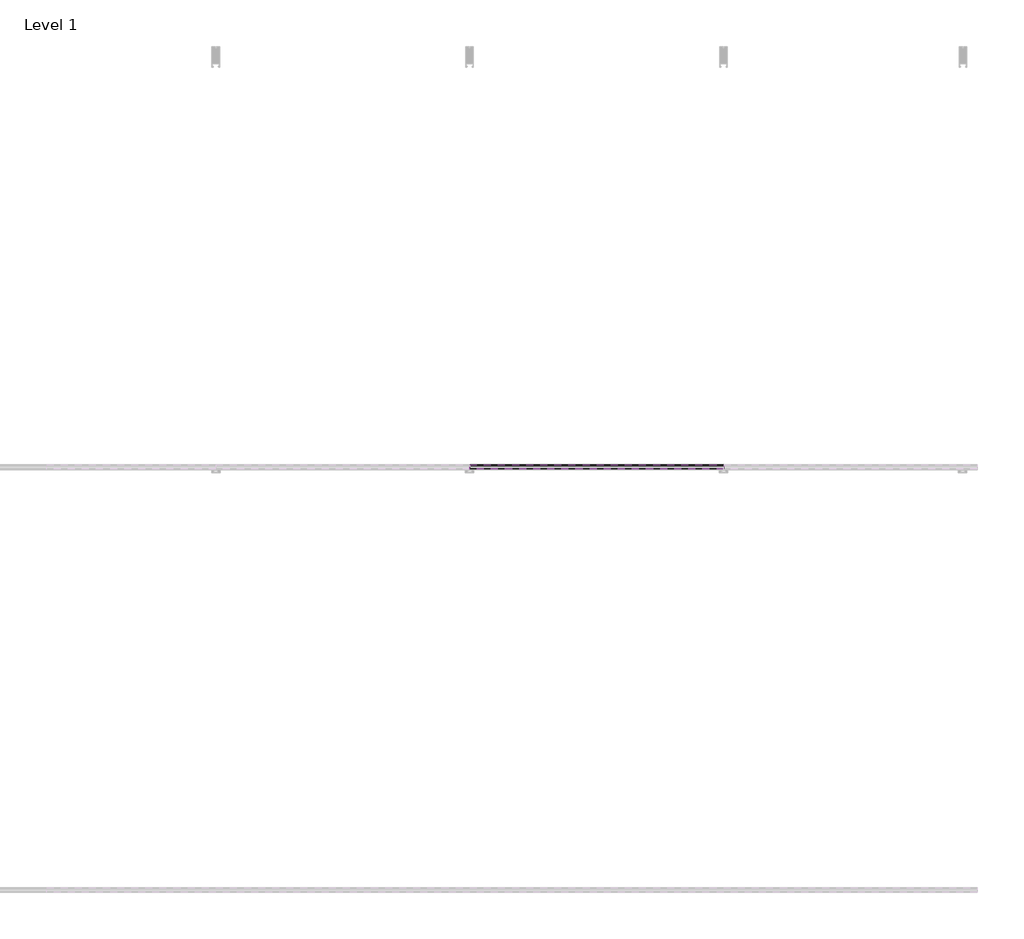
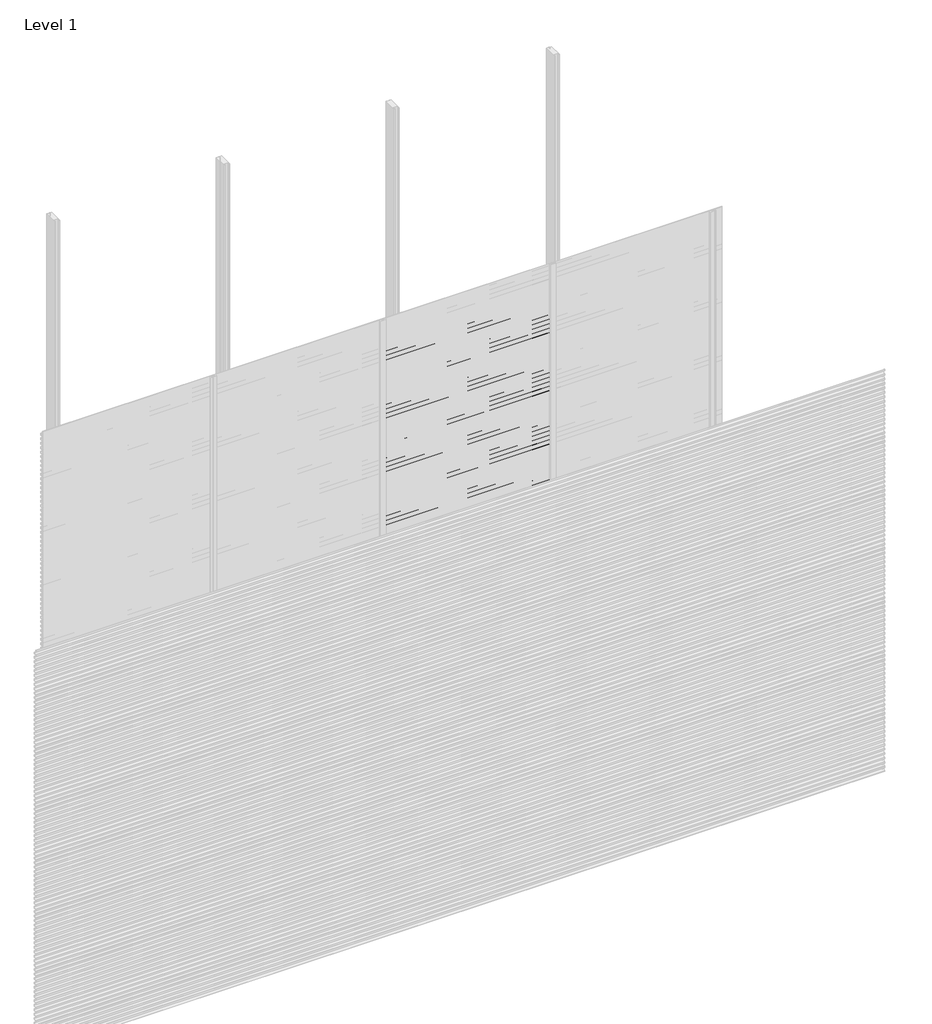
# One storey, part 46 of 77: 72 proxies.
"""IFC4 building model written with IfcOpenShell, lengths in millimetres."""

from ifc_helpers import new_model, si_unit, frame, origin, place, context, project, spatial, polyline, outline, extrude, element, save

model = new_model("IFC4")

# Units and contexts
model_context = context("Model", 3, world=origin())
ifc_project = project(units=[si_unit("LENGTHUNIT", "METRE", prefix="MILLI")], contexts=[model_context])

# Site, building, storey
site = spatial("IfcSite", under=ifc_project)
building = spatial("IfcBuilding", under=site)
storey = spatial("IfcBuildingStorey", under=building, Name="Level 1", Elevation=0.0)

# Proxies
placement = place(None, origin())
element("IfcBuildingElementProxy", 1, Name="Wall Sweeps", at=placement, inside=storey, context=model_context, shape_type="SweptSolid", body=[
    extrude(outline(polyline([(-23978.6, 2806.0359887), (-23998.0, 2817.2366691), (-23998.0, 2830.5), (-23997.0, 2830.5), (-23997.0, 2817.8191057), (-23977.6, 2806.6185105), (-23977.6, 2793.0185105), (-23978.6, 2794.5953129), (-23978.6, 2800.4032062), (-23995.9773817, 2792.3), (-23996.4, 2793.2063078), (-23978.6, 2801.5065841), (-23978.6, 2806.0359887)])), frame((3600.0, 0.0, 0.0), z_axis=(1.0, 0.0, 0.0), x_axis=(0.0, 1.0, 0.0)), (0.0, 0.0, 1.0), 1200.0),
])
element("IfcBuildingElementProxy", 2, Name="Wall Sweeps", at=placement, inside=storey, context=model_context, shape_type="SweptSolid", body=[
    extrude(outline(polyline([(-23978.6, 2772.7359887), (-23998.0, 2783.9366691), (-23998.0, 2797.2), (-23997.0, 2797.2), (-23997.0, 2784.5191057), (-23977.6, 2773.3185105), (-23977.6, 2759.7185105), (-23978.6, 2761.2953129), (-23978.6, 2767.1032062), (-23995.9773817, 2759.0), (-23996.4, 2759.9063078), (-23978.6, 2768.2065841), (-23978.6, 2772.7359887)])), frame((3600.0, 0.0, 0.0), z_axis=(1.0, 0.0, 0.0), x_axis=(0.0, 1.0, 0.0)), (0.0, 0.0, 1.0), 1200.0),
])
element("IfcBuildingElementProxy", 3, Name="Wall Sweeps", at=placement, inside=storey, context=model_context, shape_type="SweptSolid", body=[
    extrude(outline(polyline([(-23978.6, 2739.4359887), (-23998.0, 2750.6366691), (-23998.0, 2763.9), (-23997.0, 2763.9), (-23997.0, 2751.2191057), (-23977.6, 2740.0185105), (-23977.6, 2726.4185105), (-23978.6, 2727.9953129), (-23978.6, 2733.8032062), (-23995.9773817, 2725.7), (-23996.4, 2726.6063078), (-23978.6, 2734.9065841), (-23978.6, 2739.4359887)])), frame((3600.0, 0.0, 0.0), z_axis=(1.0, 0.0, 0.0), x_axis=(0.0, 1.0, 0.0)), (0.0, 0.0, 1.0), 1200.0),
])
element("IfcBuildingElementProxy", 4, Name="Wall Sweeps", at=placement, inside=storey, context=model_context, shape_type="SweptSolid", body=[
    extrude(outline(polyline([(-23978.6, 2706.1359887), (-23998.0, 2717.3366691), (-23998.0, 2730.6), (-23997.0, 2730.6), (-23997.0, 2717.9191057), (-23977.6, 2706.7185105), (-23977.6, 2693.1185105), (-23978.6, 2694.6953129), (-23978.6, 2700.5032062), (-23995.9773817, 2692.4), (-23996.4, 2693.3063078), (-23978.6, 2701.6065841), (-23978.6, 2706.1359887)])), frame((3600.0, 0.0, 0.0), z_axis=(1.0, 0.0, 0.0), x_axis=(0.0, 1.0, 0.0)), (0.0, 0.0, 1.0), 1200.0),
])
element("IfcBuildingElementProxy", 5, Name="Wall Sweeps", at=placement, inside=storey, context=model_context, shape_type="SweptSolid", body=[
    extrude(outline(polyline([(-23978.6, 2672.8359887), (-23998.0, 2684.0366691), (-23998.0, 2697.3), (-23997.0, 2697.3), (-23997.0, 2684.6191057), (-23977.6, 2673.4185105), (-23977.6, 2659.8185105), (-23978.6, 2661.3953129), (-23978.6, 2667.2032062), (-23995.9773817, 2659.1), (-23996.4, 2660.0063078), (-23978.6, 2668.3065841), (-23978.6, 2672.8359887)])), frame((3600.0, 0.0, 0.0), z_axis=(1.0, 0.0, 0.0), x_axis=(0.0, 1.0, 0.0)), (0.0, 0.0, 1.0), 1200.0),
])
element("IfcBuildingElementProxy", 6, Name="Wall Sweeps", at=placement, inside=storey, context=model_context, shape_type="SweptSolid", body=[
    extrude(outline(polyline([(-23978.6, 2639.5359887), (-23998.0, 2650.7366691), (-23998.0, 2664.0), (-23997.0, 2664.0), (-23997.0, 2651.3191057), (-23977.6, 2640.1185105), (-23977.6, 2626.5185105), (-23978.6, 2628.0953129), (-23978.6, 2633.9032062), (-23995.9773817, 2625.8), (-23996.4, 2626.7063078), (-23978.6, 2635.0065841), (-23978.6, 2639.5359887)])), frame((3600.0, 0.0, 0.0), z_axis=(1.0, 0.0, 0.0), x_axis=(0.0, 1.0, 0.0)), (0.0, 0.0, 1.0), 1200.0),
])
element("IfcBuildingElementProxy", 7, Name="Wall Sweeps", at=placement, inside=storey, context=model_context, shape_type="SweptSolid", body=[
    extrude(outline(polyline([(-23978.6, 2606.2359887), (-23998.0, 2617.4366691), (-23998.0, 2630.7), (-23997.0, 2630.7), (-23997.0, 2618.0191057), (-23977.6, 2606.8185105), (-23977.6, 2593.2185105), (-23978.6, 2594.7953129), (-23978.6, 2600.6032062), (-23995.9773817, 2592.5), (-23996.4, 2593.4063078), (-23978.6, 2601.7065841), (-23978.6, 2606.2359887)])), frame((3600.0, 0.0, 0.0), z_axis=(1.0, 0.0, 0.0), x_axis=(0.0, 1.0, 0.0)), (0.0, 0.0, 1.0), 1200.0),
])
element("IfcBuildingElementProxy", 8, Name="Wall Sweeps", at=placement, inside=storey, context=model_context, shape_type="SweptSolid", body=[
    extrude(outline(polyline([(-23978.6, 2572.9359887), (-23998.0, 2584.1366691), (-23998.0, 2597.4), (-23997.0, 2597.4), (-23997.0, 2584.7191057), (-23977.6, 2573.5185105), (-23977.6, 2559.9185105), (-23978.6, 2561.4953129), (-23978.6, 2567.3032062), (-23995.9773817, 2559.2), (-23996.4, 2560.1063078), (-23978.6, 2568.4065841), (-23978.6, 2572.9359887)])), frame((3600.0, 0.0, 0.0), z_axis=(1.0, 0.0, 0.0), x_axis=(0.0, 1.0, 0.0)), (0.0, 0.0, 1.0), 1200.0),
])
element("IfcBuildingElementProxy", 9, Name="Wall Sweeps", at=placement, inside=storey, context=model_context, shape_type="SweptSolid", body=[
    extrude(outline(polyline([(-23978.6, 2539.6359887), (-23998.0, 2550.8366691), (-23998.0, 2564.1), (-23997.0, 2564.1), (-23997.0, 2551.4191057), (-23977.6, 2540.2185105), (-23977.6, 2526.6185105), (-23978.6, 2528.1953129), (-23978.6, 2534.0032062), (-23995.9773817, 2525.9), (-23996.4, 2526.8063078), (-23978.6, 2535.1065841), (-23978.6, 2539.6359887)])), frame((3600.0, 0.0, 0.0), z_axis=(1.0, 0.0, 0.0), x_axis=(0.0, 1.0, 0.0)), (0.0, 0.0, 1.0), 1200.0),
])
element("IfcBuildingElementProxy", 10, Name="Wall Sweeps", at=placement, inside=storey, context=model_context, shape_type="SweptSolid", body=[
    extrude(outline(polyline([(-23978.6, 2506.3359887), (-23998.0, 2517.5366691), (-23998.0, 2530.8), (-23997.0, 2530.8), (-23997.0, 2518.1191057), (-23977.6, 2506.9185105), (-23977.6, 2493.3185105), (-23978.6, 2494.8953129), (-23978.6, 2500.7032062), (-23995.9773817, 2492.6), (-23996.4, 2493.5063078), (-23978.6, 2501.8065841), (-23978.6, 2506.3359887)])), frame((3600.0, 0.0, 0.0), z_axis=(1.0, 0.0, 0.0), x_axis=(0.0, 1.0, 0.0)), (0.0, 0.0, 1.0), 1200.0),
])
element("IfcBuildingElementProxy", 11, Name="Wall Sweeps", at=placement, inside=storey, context=model_context, shape_type="SweptSolid", body=[
    extrude(outline(polyline([(-23978.6, 2473.0359887), (-23998.0, 2484.2366691), (-23998.0, 2497.5), (-23997.0, 2497.5), (-23997.0, 2484.8191057), (-23977.6, 2473.6185105), (-23977.6, 2460.0185105), (-23978.6, 2461.5953129), (-23978.6, 2467.4032062), (-23995.9773817, 2459.3), (-23996.4, 2460.2063078), (-23978.6, 2468.5065841), (-23978.6, 2473.0359887)])), frame((3600.0, 0.0, 0.0), z_axis=(1.0, 0.0, 0.0), x_axis=(0.0, 1.0, 0.0)), (0.0, 0.0, 1.0), 1200.0),
])
element("IfcBuildingElementProxy", 12, Name="Wall Sweeps", at=placement, inside=storey, context=model_context, shape_type="SweptSolid", body=[
    extrude(outline(polyline([(-23978.6, 2439.7359887), (-23998.0, 2450.9366691), (-23998.0, 2464.2), (-23997.0, 2464.2), (-23997.0, 2451.5191057), (-23977.6, 2440.3185105), (-23977.6, 2426.7185105), (-23978.6, 2428.2953129), (-23978.6, 2434.1032062), (-23995.9773817, 2426.0), (-23996.4, 2426.9063078), (-23978.6, 2435.2065841), (-23978.6, 2439.7359887)])), frame((3600.0, 0.0, 0.0), z_axis=(1.0, 0.0, 0.0), x_axis=(0.0, 1.0, 0.0)), (0.0, 0.0, 1.0), 1200.0),
])
element("IfcBuildingElementProxy", 13, Name="Wall Sweeps", at=placement, inside=storey, context=model_context, shape_type="SweptSolid", body=[
    extrude(outline(polyline([(-23978.6, 2406.4359887), (-23998.0, 2417.6366691), (-23998.0, 2430.9), (-23997.0, 2430.9), (-23997.0, 2418.2191057), (-23977.6, 2407.0185105), (-23977.6, 2393.4185105), (-23978.6, 2394.9953129), (-23978.6, 2400.8032062), (-23995.9773817, 2392.7), (-23996.4, 2393.6063078), (-23978.6, 2401.9065841), (-23978.6, 2406.4359887)])), frame((3600.0, 0.0, 0.0), z_axis=(1.0, 0.0, 0.0), x_axis=(0.0, 1.0, 0.0)), (0.0, 0.0, 1.0), 1200.0),
])
element("IfcBuildingElementProxy", 14, Name="Wall Sweeps", at=placement, inside=storey, context=model_context, shape_type="SweptSolid", body=[
    extrude(outline(polyline([(-23978.6, 2373.1359887), (-23998.0, 2384.3366691), (-23998.0, 2397.6), (-23997.0, 2397.6), (-23997.0, 2384.9191057), (-23977.6, 2373.7185105), (-23977.6, 2360.1185105), (-23978.6, 2361.6953129), (-23978.6, 2367.5032062), (-23995.9773817, 2359.4), (-23996.4, 2360.3063078), (-23978.6, 2368.6065841), (-23978.6, 2373.1359887)])), frame((3600.0, 0.0, 0.0), z_axis=(1.0, 0.0, 0.0), x_axis=(0.0, 1.0, 0.0)), (0.0, 0.0, 1.0), 1200.0),
])
element("IfcBuildingElementProxy", 15, Name="Wall Sweeps", at=placement, inside=storey, context=model_context, shape_type="SweptSolid", body=[
    extrude(outline(polyline([(-23978.6, 2339.8359887), (-23998.0, 2351.0366691), (-23998.0, 2364.3), (-23997.0, 2364.3), (-23997.0, 2351.6191057), (-23977.6, 2340.4185105), (-23977.6, 2326.8185105), (-23978.6, 2328.3953129), (-23978.6, 2334.2032062), (-23995.9773817, 2326.1), (-23996.4, 2327.0063078), (-23978.6, 2335.3065841), (-23978.6, 2339.8359887)])), frame((3600.0, 0.0, 0.0), z_axis=(1.0, 0.0, 0.0), x_axis=(0.0, 1.0, 0.0)), (0.0, 0.0, 1.0), 1200.0),
])
element("IfcBuildingElementProxy", 16, Name="Wall Sweeps", at=placement, inside=storey, context=model_context, shape_type="SweptSolid", body=[
    extrude(outline(polyline([(-23978.6, 2306.5359887), (-23998.0, 2317.7366691), (-23998.0, 2331.0), (-23997.0, 2331.0), (-23997.0, 2318.3191057), (-23977.6, 2307.1185105), (-23977.6, 2293.5185105), (-23978.6, 2295.0953129), (-23978.6, 2300.9032062), (-23995.9773817, 2292.8), (-23996.4, 2293.7063078), (-23978.6, 2302.0065841), (-23978.6, 2306.5359887)])), frame((3600.0, 0.0, 0.0), z_axis=(1.0, 0.0, 0.0), x_axis=(0.0, 1.0, 0.0)), (0.0, 0.0, 1.0), 1200.0),
])
element("IfcBuildingElementProxy", 17, Name="Wall Sweeps", at=placement, inside=storey, context=model_context, shape_type="SweptSolid", body=[
    extrude(outline(polyline([(-23978.6, 2273.2359887), (-23998.0, 2284.4366691), (-23998.0, 2297.7), (-23997.0, 2297.7), (-23997.0, 2285.0191057), (-23977.6, 2273.8185105), (-23977.6, 2260.2185105), (-23978.6, 2261.7953129), (-23978.6, 2267.6032062), (-23995.9773817, 2259.5), (-23996.4, 2260.4063078), (-23978.6, 2268.7065841), (-23978.6, 2273.2359887)])), frame((3600.0, 0.0, 0.0), z_axis=(1.0, 0.0, 0.0), x_axis=(0.0, 1.0, 0.0)), (0.0, 0.0, 1.0), 1200.0),
])
element("IfcBuildingElementProxy", 18, Name="Wall Sweeps", at=placement, inside=storey, context=model_context, shape_type="SweptSolid", body=[
    extrude(outline(polyline([(-23978.6, 2239.9359887), (-23998.0, 2251.1366691), (-23998.0, 2264.4), (-23997.0, 2264.4), (-23997.0, 2251.7191057), (-23977.6, 2240.5185105), (-23977.6, 2226.9185105), (-23978.6, 2228.4953129), (-23978.6, 2234.3032062), (-23995.9773817, 2226.2), (-23996.4, 2227.1063078), (-23978.6, 2235.4065841), (-23978.6, 2239.9359887)])), frame((3600.0, 0.0, 0.0), z_axis=(1.0, 0.0, 0.0), x_axis=(0.0, 1.0, 0.0)), (0.0, 0.0, 1.0), 1200.0),
])
element("IfcBuildingElementProxy", 19, Name="Wall Sweeps", at=placement, inside=storey, context=model_context, shape_type="SweptSolid", body=[
    extrude(outline(polyline([(-23978.6, 2206.6359887), (-23998.0, 2217.8366691), (-23998.0, 2231.1), (-23997.0, 2231.1), (-23997.0, 2218.4191057), (-23977.6, 2207.2185105), (-23977.6, 2193.6185105), (-23978.6, 2195.1953129), (-23978.6, 2201.0032062), (-23995.9773817, 2192.9), (-23996.4, 2193.8063078), (-23978.6, 2202.1065841), (-23978.6, 2206.6359887)])), frame((3600.0, 0.0, 0.0), z_axis=(1.0, 0.0, 0.0), x_axis=(0.0, 1.0, 0.0)), (0.0, 0.0, 1.0), 1200.0),
])
element("IfcBuildingElementProxy", 20, Name="Wall Sweeps", at=placement, inside=storey, context=model_context, shape_type="SweptSolid", body=[
    extrude(outline(polyline([(-23978.6, 2173.3359887), (-23998.0, 2184.5366691), (-23998.0, 2197.8), (-23997.0, 2197.8), (-23997.0, 2185.1191057), (-23977.6, 2173.9185105), (-23977.6, 2160.3185105), (-23978.6, 2161.8953129), (-23978.6, 2167.7032062), (-23995.9773817, 2159.6), (-23996.4, 2160.5063078), (-23978.6, 2168.8065841), (-23978.6, 2173.3359887)])), frame((3600.0, 0.0, 0.0), z_axis=(1.0, 0.0, 0.0), x_axis=(0.0, 1.0, 0.0)), (0.0, 0.0, 1.0), 1200.0),
])
element("IfcBuildingElementProxy", 21, Name="Wall Sweeps", at=placement, inside=storey, context=model_context, shape_type="SweptSolid", body=[
    extrude(outline(polyline([(-23978.6, 2140.0359887), (-23998.0, 2151.2366691), (-23998.0, 2164.5), (-23997.0, 2164.5), (-23997.0, 2151.8191057), (-23977.6, 2140.6185105), (-23977.6, 2127.0185105), (-23978.6, 2128.5953129), (-23978.6, 2134.4032062), (-23995.9773817, 2126.3), (-23996.4, 2127.2063078), (-23978.6, 2135.5065841), (-23978.6, 2140.0359887)])), frame((3600.0, 0.0, 0.0), z_axis=(1.0, 0.0, 0.0), x_axis=(0.0, 1.0, 0.0)), (0.0, 0.0, 1.0), 1200.0),
])
element("IfcBuildingElementProxy", 22, Name="Wall Sweeps", at=placement, inside=storey, context=model_context, shape_type="SweptSolid", body=[
    extrude(outline(polyline([(-23978.6, 2106.7359887), (-23998.0, 2117.9366691), (-23998.0, 2131.2), (-23997.0, 2131.2), (-23997.0, 2118.5191057), (-23977.6, 2107.3185105), (-23977.6, 2093.7185105), (-23978.6, 2095.2953129), (-23978.6, 2101.1032062), (-23995.9773817, 2093.0), (-23996.4, 2093.9063078), (-23978.6, 2102.2065841), (-23978.6, 2106.7359887)])), frame((3600.0, 0.0, 0.0), z_axis=(1.0, 0.0, 0.0), x_axis=(0.0, 1.0, 0.0)), (0.0, 0.0, 1.0), 1200.0),
])
element("IfcBuildingElementProxy", 23, Name="Wall Sweeps", at=placement, inside=storey, context=model_context, shape_type="SweptSolid", body=[
    extrude(outline(polyline([(-23978.6, 2073.4359887), (-23998.0, 2084.6366691), (-23998.0, 2097.9), (-23997.0, 2097.9), (-23997.0, 2085.2191057), (-23977.6, 2074.0185105), (-23977.6, 2060.4185105), (-23978.6, 2061.9953129), (-23978.6, 2067.8032062), (-23995.9773817, 2059.7), (-23996.4, 2060.6063078), (-23978.6, 2068.9065841), (-23978.6, 2073.4359887)])), frame((3600.0, 0.0, 0.0), z_axis=(1.0, 0.0, 0.0), x_axis=(0.0, 1.0, 0.0)), (0.0, 0.0, 1.0), 1200.0),
])
element("IfcBuildingElementProxy", 24, Name="Wall Sweeps", at=placement, inside=storey, context=model_context, shape_type="SweptSolid", body=[
    extrude(outline(polyline([(-23978.6, 2040.1359887), (-23998.0, 2051.3366691), (-23998.0, 2064.6), (-23997.0, 2064.6), (-23997.0, 2051.9191057), (-23977.6, 2040.7185105), (-23977.6, 2027.1185105), (-23978.6, 2028.6953129), (-23978.6, 2034.5032062), (-23995.9773817, 2026.4), (-23996.4, 2027.3063078), (-23978.6, 2035.6065841), (-23978.6, 2040.1359887)])), frame((3600.0, 0.0, 0.0), z_axis=(1.0, 0.0, 0.0), x_axis=(0.0, 1.0, 0.0)), (0.0, 0.0, 1.0), 1200.0),
])
element("IfcBuildingElementProxy", 25, Name="Wall Sweeps", at=placement, inside=storey, context=model_context, shape_type="SweptSolid", body=[
    extrude(outline(polyline([(-23978.6, 2006.8359887), (-23998.0, 2018.0366691), (-23998.0, 2031.3), (-23997.0, 2031.3), (-23997.0, 2018.6191057), (-23977.6, 2007.4185105), (-23977.6, 1993.8185105), (-23978.6, 1995.3953129), (-23978.6, 2001.2032062), (-23995.9773817, 1993.1), (-23996.4, 1994.0063078), (-23978.6, 2002.3065841), (-23978.6, 2006.8359887)])), frame((3600.0, 0.0, 0.0), z_axis=(1.0, 0.0, 0.0), x_axis=(0.0, 1.0, 0.0)), (0.0, 0.0, 1.0), 1200.0),
])
element("IfcBuildingElementProxy", 26, Name="Wall Sweeps", at=placement, inside=storey, context=model_context, shape_type="SweptSolid", body=[
    extrude(outline(polyline([(-23978.6, 1973.5359887), (-23998.0, 1984.7366691), (-23998.0, 1998.0), (-23997.0, 1998.0), (-23997.0, 1985.3191057), (-23977.6, 1974.1185105), (-23977.6, 1960.5185105), (-23978.6, 1962.0953129), (-23978.6, 1967.9032062), (-23995.9773817, 1959.8), (-23996.4, 1960.7063078), (-23978.6, 1969.0065841), (-23978.6, 1973.5359887)])), frame((3600.0, 0.0, 0.0), z_axis=(1.0, 0.0, 0.0), x_axis=(0.0, 1.0, 0.0)), (0.0, 0.0, 1.0), 1200.0),
])
element("IfcBuildingElementProxy", 27, Name="Wall Sweeps", at=placement, inside=storey, context=model_context, shape_type="SweptSolid", body=[
    extrude(outline(polyline([(-23978.6, 1940.2359887), (-23998.0, 1951.4366691), (-23998.0, 1964.7), (-23997.0, 1964.7), (-23997.0, 1952.0191057), (-23977.6, 1940.8185105), (-23977.6, 1927.2185105), (-23978.6, 1928.7953129), (-23978.6, 1934.6032062), (-23995.9773817, 1926.5), (-23996.4, 1927.4063078), (-23978.6, 1935.7065841), (-23978.6, 1940.2359887)])), frame((3600.0, 0.0, 0.0), z_axis=(1.0, 0.0, 0.0), x_axis=(0.0, 1.0, 0.0)), (0.0, 0.0, 1.0), 1200.0),
])
element("IfcBuildingElementProxy", 28, Name="Wall Sweeps", at=placement, inside=storey, context=model_context, shape_type="SweptSolid", body=[
    extrude(outline(polyline([(-23978.6, 1906.9359887), (-23998.0, 1918.1366691), (-23998.0, 1931.4), (-23997.0, 1931.4), (-23997.0, 1918.7191057), (-23977.6, 1907.5185105), (-23977.6, 1893.9185105), (-23978.6, 1895.4953129), (-23978.6, 1901.3032062), (-23995.9773817, 1893.2), (-23996.4, 1894.1063078), (-23978.6, 1902.4065841), (-23978.6, 1906.9359887)])), frame((3600.0, 0.0, 0.0), z_axis=(1.0, 0.0, 0.0), x_axis=(0.0, 1.0, 0.0)), (0.0, 0.0, 1.0), 1200.0),
])
element("IfcBuildingElementProxy", 29, Name="Wall Sweeps", at=placement, inside=storey, context=model_context, shape_type="SweptSolid", body=[
    extrude(outline(polyline([(-23978.6, 1873.6359887), (-23998.0, 1884.8366691), (-23998.0, 1898.1), (-23997.0, 1898.1), (-23997.0, 1885.4191057), (-23977.6, 1874.2185105), (-23977.6, 1860.6185105), (-23978.6, 1862.1953129), (-23978.6, 1868.0032062), (-23995.9773817, 1859.9), (-23996.4, 1860.8063078), (-23978.6, 1869.1065841), (-23978.6, 1873.6359887)])), frame((3600.0, 0.0, 0.0), z_axis=(1.0, 0.0, 0.0), x_axis=(0.0, 1.0, 0.0)), (0.0, 0.0, 1.0), 1200.0),
])
element("IfcBuildingElementProxy", 30, Name="Wall Sweeps", at=placement, inside=storey, context=model_context, shape_type="SweptSolid", body=[
    extrude(outline(polyline([(-23978.6, 1840.3359887), (-23998.0, 1851.5366691), (-23998.0, 1864.8), (-23997.0, 1864.8), (-23997.0, 1852.1191057), (-23977.6, 1840.9185105), (-23977.6, 1827.3185105), (-23978.6, 1828.8953129), (-23978.6, 1834.7032062), (-23995.9773817, 1826.6), (-23996.4, 1827.5063078), (-23978.6, 1835.8065841), (-23978.6, 1840.3359887)])), frame((3600.0, 0.0, 0.0), z_axis=(1.0, 0.0, 0.0), x_axis=(0.0, 1.0, 0.0)), (0.0, 0.0, 1.0), 1200.0),
])
element("IfcBuildingElementProxy", 31, Name="Wall Sweeps", at=placement, inside=storey, context=model_context, shape_type="SweptSolid", body=[
    extrude(outline(polyline([(-23978.6, 1807.0359887), (-23998.0, 1818.2366691), (-23998.0, 1831.5), (-23997.0, 1831.5), (-23997.0, 1818.8191057), (-23977.6, 1807.6185105), (-23977.6, 1794.0185105), (-23978.6, 1795.5953129), (-23978.6, 1801.4032062), (-23995.9773817, 1793.3), (-23996.4, 1794.2063078), (-23978.6, 1802.5065841), (-23978.6, 1807.0359887)])), frame((3600.0, 0.0, 0.0), z_axis=(1.0, 0.0, 0.0), x_axis=(0.0, 1.0, 0.0)), (0.0, 0.0, 1.0), 1200.0),
])
element("IfcBuildingElementProxy", 32, Name="Wall Sweeps", at=placement, inside=storey, context=model_context, shape_type="SweptSolid", body=[
    extrude(outline(polyline([(-23978.6, 1773.7359887), (-23998.0, 1784.9366691), (-23998.0, 1798.2), (-23997.0, 1798.2), (-23997.0, 1785.5191057), (-23977.6, 1774.3185105), (-23977.6, 1760.7185105), (-23978.6, 1762.2953129), (-23978.6, 1768.1032062), (-23995.9773817, 1760.0), (-23996.4, 1760.9063078), (-23978.6, 1769.2065841), (-23978.6, 1773.7359887)])), frame((3600.0, 0.0, 0.0), z_axis=(1.0, 0.0, 0.0), x_axis=(0.0, 1.0, 0.0)), (0.0, 0.0, 1.0), 1200.0),
])
element("IfcBuildingElementProxy", 33, Name="Wall Sweeps", at=placement, inside=storey, context=model_context, shape_type="SweptSolid", body=[
    extrude(outline(polyline([(-23978.6, 1740.4359887), (-23998.0, 1751.6366691), (-23998.0, 1764.9), (-23997.0, 1764.9), (-23997.0, 1752.2191057), (-23977.6, 1741.0185105), (-23977.6, 1727.4185105), (-23978.6, 1728.9953129), (-23978.6, 1734.8032062), (-23995.9773817, 1726.7), (-23996.4, 1727.6063078), (-23978.6, 1735.9065841), (-23978.6, 1740.4359887)])), frame((3600.0, 0.0, 0.0), z_axis=(1.0, 0.0, 0.0), x_axis=(0.0, 1.0, 0.0)), (0.0, 0.0, 1.0), 1200.0),
])
element("IfcBuildingElementProxy", 34, Name="Wall Sweeps", at=placement, inside=storey, context=model_context, shape_type="SweptSolid", body=[
    extrude(outline(polyline([(-23978.6, 1707.1359887), (-23998.0, 1718.3366691), (-23998.0, 1731.6), (-23997.0, 1731.6), (-23997.0, 1718.9191057), (-23977.6, 1707.7185105), (-23977.6, 1694.1185105), (-23978.6, 1695.6953129), (-23978.6, 1701.5032062), (-23995.9773817, 1693.4), (-23996.4, 1694.3063078), (-23978.6, 1702.6065841), (-23978.6, 1707.1359887)])), frame((3600.0, 0.0, 0.0), z_axis=(1.0, 0.0, 0.0), x_axis=(0.0, 1.0, 0.0)), (0.0, 0.0, 1.0), 1200.0),
])
element("IfcBuildingElementProxy", 35, Name="Wall Sweeps", at=placement, inside=storey, context=model_context, shape_type="SweptSolid", body=[
    extrude(outline(polyline([(-23978.6, 1673.8359887), (-23998.0, 1685.0366691), (-23998.0, 1698.3), (-23997.0, 1698.3), (-23997.0, 1685.6191057), (-23977.6, 1674.4185105), (-23977.6, 1660.8185105), (-23978.6, 1662.3953129), (-23978.6, 1668.2032062), (-23995.9773817, 1660.1), (-23996.4, 1661.0063078), (-23978.6, 1669.3065841), (-23978.6, 1673.8359887)])), frame((3600.0, 0.0, 0.0), z_axis=(1.0, 0.0, 0.0), x_axis=(0.0, 1.0, 0.0)), (0.0, 0.0, 1.0), 1200.0),
])
element("IfcBuildingElementProxy", 36, Name="Wall Sweeps", at=placement, inside=storey, context=model_context, shape_type="SweptSolid", body=[
    extrude(outline(polyline([(-23978.6, 1640.5359887), (-23998.0, 1651.7366691), (-23998.0, 1665.0), (-23997.0, 1665.0), (-23997.0, 1652.3191057), (-23977.6, 1641.1185105), (-23977.6, 1627.5185105), (-23978.6, 1629.0953129), (-23978.6, 1634.9032062), (-23995.9773817, 1626.8), (-23996.4, 1627.7063078), (-23978.6, 1636.0065841), (-23978.6, 1640.5359887)])), frame((3600.0, 0.0, 0.0), z_axis=(1.0, 0.0, 0.0), x_axis=(0.0, 1.0, 0.0)), (0.0, 0.0, 1.0), 1200.0),
])
element("IfcBuildingElementProxy", 37, Name="Wall Sweeps", at=placement, inside=storey, context=model_context, shape_type="SweptSolid", body=[
    extrude(outline(polyline([(-23978.6, 1607.2359887), (-23998.0, 1618.4366691), (-23998.0, 1631.7), (-23997.0, 1631.7), (-23997.0, 1619.0191057), (-23977.6, 1607.8185105), (-23977.6, 1594.2185105), (-23978.6, 1595.7953129), (-23978.6, 1601.6032062), (-23995.9773817, 1593.5), (-23996.4, 1594.4063078), (-23978.6, 1602.7065841), (-23978.6, 1607.2359887)])), frame((3600.0, 0.0, 0.0), z_axis=(1.0, 0.0, 0.0), x_axis=(0.0, 1.0, 0.0)), (0.0, 0.0, 1.0), 1200.0),
])
element("IfcBuildingElementProxy", 38, Name="Wall Sweeps", at=placement, inside=storey, context=model_context, shape_type="SweptSolid", body=[
    extrude(outline(polyline([(-23978.6, 1573.9359887), (-23998.0, 1585.1366691), (-23998.0, 1598.4), (-23997.0, 1598.4), (-23997.0, 1585.7191057), (-23977.6, 1574.5185105), (-23977.6, 1560.9185105), (-23978.6, 1562.4953129), (-23978.6, 1568.3032062), (-23995.9773817, 1560.2), (-23996.4, 1561.1063078), (-23978.6, 1569.4065841), (-23978.6, 1573.9359887)])), frame((3600.0, 0.0, 0.0), z_axis=(1.0, 0.0, 0.0), x_axis=(0.0, 1.0, 0.0)), (0.0, 0.0, 1.0), 1200.0),
])
element("IfcBuildingElementProxy", 39, Name="Wall Sweeps", at=placement, inside=storey, context=model_context, shape_type="SweptSolid", body=[
    extrude(outline(polyline([(-23978.6, 1540.6359887), (-23998.0, 1551.8366691), (-23998.0, 1565.1), (-23997.0, 1565.1), (-23997.0, 1552.4191057), (-23977.6, 1541.2185105), (-23977.6, 1527.6185105), (-23978.6, 1529.1953129), (-23978.6, 1535.0032062), (-23995.9773817, 1526.9), (-23996.4, 1527.8063078), (-23978.6, 1536.1065841), (-23978.6, 1540.6359887)])), frame((3600.0, 0.0, 0.0), z_axis=(1.0, 0.0, 0.0), x_axis=(0.0, 1.0, 0.0)), (0.0, 0.0, 1.0), 1200.0),
])
element("IfcBuildingElementProxy", 40, Name="Wall Sweeps", at=placement, inside=storey, context=model_context, shape_type="SweptSolid", body=[
    extrude(outline(polyline([(-23978.6, 1507.3359887), (-23998.0, 1518.5366691), (-23998.0, 1531.8), (-23997.0, 1531.8), (-23997.0, 1519.1191057), (-23977.6, 1507.9185105), (-23977.6, 1494.3185105), (-23978.6, 1495.8953129), (-23978.6, 1501.7032062), (-23995.9773817, 1493.6), (-23996.4, 1494.5063078), (-23978.6, 1502.8065841), (-23978.6, 1507.3359887)])), frame((3600.0, 0.0, 0.0), z_axis=(1.0, 0.0, 0.0), x_axis=(0.0, 1.0, 0.0)), (0.0, 0.0, 1.0), 1200.0),
])
element("IfcBuildingElementProxy", 41, Name="Wall Sweeps", at=placement, inside=storey, context=model_context, shape_type="SweptSolid", body=[
    extrude(outline(polyline([(-23978.6, 1474.0359887), (-23998.0, 1485.2366691), (-23998.0, 1498.5), (-23997.0, 1498.5), (-23997.0, 1485.8191057), (-23977.6, 1474.6185105), (-23977.6, 1461.0185105), (-23978.6, 1462.5953129), (-23978.6, 1468.4032062), (-23995.9773817, 1460.3), (-23996.4, 1461.2063078), (-23978.6, 1469.5065841), (-23978.6, 1474.0359887)])), frame((3600.0, 0.0, 0.0), z_axis=(1.0, 0.0, 0.0), x_axis=(0.0, 1.0, 0.0)), (0.0, 0.0, 1.0), 1200.0),
])
element("IfcBuildingElementProxy", 42, Name="Wall Sweeps", at=placement, inside=storey, context=model_context, shape_type="SweptSolid", body=[
    extrude(outline(polyline([(-23978.6, 1440.7359887), (-23998.0, 1451.9366691), (-23998.0, 1465.2), (-23997.0, 1465.2), (-23997.0, 1452.5191057), (-23977.6, 1441.3185105), (-23977.6, 1427.7185105), (-23978.6, 1429.2953129), (-23978.6, 1435.1032062), (-23995.9773817, 1427.0), (-23996.4, 1427.9063078), (-23978.6, 1436.2065841), (-23978.6, 1440.7359887)])), frame((3600.0, 0.0, 0.0), z_axis=(1.0, 0.0, 0.0), x_axis=(0.0, 1.0, 0.0)), (0.0, 0.0, 1.0), 1200.0),
])
element("IfcBuildingElementProxy", 43, Name="Wall Sweeps", at=placement, inside=storey, context=model_context, shape_type="SweptSolid", body=[
    extrude(outline(polyline([(-23978.6, 1407.4359887), (-23998.0, 1418.6366691), (-23998.0, 1431.9), (-23997.0, 1431.9), (-23997.0, 1419.2191057), (-23977.6, 1408.0185105), (-23977.6, 1394.4185105), (-23978.6, 1395.9953129), (-23978.6, 1401.8032062), (-23995.9773817, 1393.7), (-23996.4, 1394.6063078), (-23978.6, 1402.9065841), (-23978.6, 1407.4359887)])), frame((3600.0, 0.0, 0.0), z_axis=(1.0, 0.0, 0.0), x_axis=(0.0, 1.0, 0.0)), (0.0, 0.0, 1.0), 1200.0),
])
element("IfcBuildingElementProxy", 44, Name="Wall Sweeps", at=placement, inside=storey, context=model_context, shape_type="SweptSolid", body=[
    extrude(outline(polyline([(-23978.6, 1374.1359887), (-23998.0, 1385.3366691), (-23998.0, 1398.6), (-23997.0, 1398.6), (-23997.0, 1385.9191057), (-23977.6, 1374.7185105), (-23977.6, 1361.1185105), (-23978.6, 1362.6953129), (-23978.6, 1368.5032062), (-23995.9773817, 1360.4), (-23996.4, 1361.3063078), (-23978.6, 1369.6065841), (-23978.6, 1374.1359887)])), frame((3600.0, 0.0, 0.0), z_axis=(1.0, 0.0, 0.0), x_axis=(0.0, 1.0, 0.0)), (0.0, 0.0, 1.0), 1200.0),
])
element("IfcBuildingElementProxy", 45, Name="Wall Sweeps", at=placement, inside=storey, context=model_context, shape_type="SweptSolid", body=[
    extrude(outline(polyline([(-23978.6, 1340.8359887), (-23998.0, 1352.0366691), (-23998.0, 1365.3), (-23997.0, 1365.3), (-23997.0, 1352.6191057), (-23977.6, 1341.4185105), (-23977.6, 1327.8185105), (-23978.6, 1329.3953129), (-23978.6, 1335.2032062), (-23995.9773817, 1327.1), (-23996.4, 1328.0063078), (-23978.6, 1336.3065841), (-23978.6, 1340.8359887)])), frame((3600.0, 0.0, 0.0), z_axis=(1.0, 0.0, 0.0), x_axis=(0.0, 1.0, 0.0)), (0.0, 0.0, 1.0), 1200.0),
])
element("IfcBuildingElementProxy", 46, Name="Wall Sweeps", at=placement, inside=storey, context=model_context, shape_type="SweptSolid", body=[
    extrude(outline(polyline([(-23978.6, 1307.5359887), (-23998.0, 1318.7366691), (-23998.0, 1332.0), (-23997.0, 1332.0), (-23997.0, 1319.3191057), (-23977.6, 1308.1185105), (-23977.6, 1294.5185105), (-23978.6, 1296.0953129), (-23978.6, 1301.9032062), (-23995.9773817, 1293.8), (-23996.4, 1294.7063078), (-23978.6, 1303.0065841), (-23978.6, 1307.5359887)])), frame((3600.0, 0.0, 0.0), z_axis=(1.0, 0.0, 0.0), x_axis=(0.0, 1.0, 0.0)), (0.0, 0.0, 1.0), 1200.0),
])
element("IfcBuildingElementProxy", 47, Name="Wall Sweeps", at=placement, inside=storey, context=model_context, shape_type="SweptSolid", body=[
    extrude(outline(polyline([(-23978.6, 1274.2359887), (-23998.0, 1285.4366691), (-23998.0, 1298.7), (-23997.0, 1298.7), (-23997.0, 1286.0191057), (-23977.6, 1274.8185105), (-23977.6, 1261.2185105), (-23978.6, 1262.7953129), (-23978.6, 1268.6032062), (-23995.9773817, 1260.5), (-23996.4, 1261.4063078), (-23978.6, 1269.7065841), (-23978.6, 1274.2359887)])), frame((3600.0, 0.0, 0.0), z_axis=(1.0, 0.0, 0.0), x_axis=(0.0, 1.0, 0.0)), (0.0, 0.0, 1.0), 1200.0),
])
element("IfcBuildingElementProxy", 48, Name="Wall Sweeps", at=placement, inside=storey, context=model_context, shape_type="SweptSolid", body=[
    extrude(outline(polyline([(-23978.6, 1240.9359887), (-23998.0, 1252.1366691), (-23998.0, 1265.4), (-23997.0, 1265.4), (-23997.0, 1252.7191057), (-23977.6, 1241.5185105), (-23977.6, 1227.9185105), (-23978.6, 1229.4953129), (-23978.6, 1235.3032062), (-23995.9773817, 1227.2), (-23996.4, 1228.1063078), (-23978.6, 1236.4065841), (-23978.6, 1240.9359887)])), frame((3600.0, 0.0, 0.0), z_axis=(1.0, 0.0, 0.0), x_axis=(0.0, 1.0, 0.0)), (0.0, 0.0, 1.0), 1200.0),
])
element("IfcBuildingElementProxy", 49, Name="Wall Sweeps", at=placement, inside=storey, context=model_context, shape_type="SweptSolid", body=[
    extrude(outline(polyline([(-23978.6, 1207.6359887), (-23998.0, 1218.8366691), (-23998.0, 1232.1), (-23997.0, 1232.1), (-23997.0, 1219.4191057), (-23977.6, 1208.2185105), (-23977.6, 1194.6185105), (-23978.6, 1196.1953129), (-23978.6, 1202.0032062), (-23995.9773817, 1193.9), (-23996.4, 1194.8063078), (-23978.6, 1203.1065841), (-23978.6, 1207.6359887)])), frame((3600.0, 0.0, 0.0), z_axis=(1.0, 0.0, 0.0), x_axis=(0.0, 1.0, 0.0)), (0.0, 0.0, 1.0), 1200.0),
])
element("IfcBuildingElementProxy", 50, Name="Wall Sweeps", at=placement, inside=storey, context=model_context, shape_type="SweptSolid", body=[
    extrude(outline(polyline([(-23978.6, 1174.3359887), (-23998.0, 1185.5366691), (-23998.0, 1198.8), (-23997.0, 1198.8), (-23997.0, 1186.1191057), (-23977.6, 1174.9185105), (-23977.6, 1161.3185105), (-23978.6, 1162.8953129), (-23978.6, 1168.7032062), (-23995.9773817, 1160.6), (-23996.4, 1161.5063078), (-23978.6, 1169.8065841), (-23978.6, 1174.3359887)])), frame((3600.0, 0.0, 0.0), z_axis=(1.0, 0.0, 0.0), x_axis=(0.0, 1.0, 0.0)), (0.0, 0.0, 1.0), 1200.0),
])
element("IfcBuildingElementProxy", 51, Name="Wall Sweeps", at=placement, inside=storey, context=model_context, shape_type="SweptSolid", body=[
    extrude(outline(polyline([(-23978.6, 1141.0359887), (-23998.0, 1152.2366691), (-23998.0, 1165.5), (-23997.0, 1165.5), (-23997.0, 1152.8191057), (-23977.6, 1141.6185105), (-23977.6, 1128.0185105), (-23978.6, 1129.5953129), (-23978.6, 1135.4032062), (-23995.9773817, 1127.3), (-23996.4, 1128.2063078), (-23978.6, 1136.5065841), (-23978.6, 1141.0359887)])), frame((3600.0, 0.0, 0.0), z_axis=(1.0, 0.0, 0.0), x_axis=(0.0, 1.0, 0.0)), (0.0, 0.0, 1.0), 1200.0),
])
element("IfcBuildingElementProxy", 52, Name="Wall Sweeps", at=placement, inside=storey, context=model_context, shape_type="SweptSolid", body=[
    extrude(outline(polyline([(-23978.6, 1107.7359887), (-23998.0, 1118.9366691), (-23998.0, 1132.2), (-23997.0, 1132.2), (-23997.0, 1119.5191057), (-23977.6, 1108.3185105), (-23977.6, 1094.7185105), (-23978.6, 1096.2953129), (-23978.6, 1102.1032062), (-23995.9773817, 1094.0), (-23996.4, 1094.9063078), (-23978.6, 1103.2065841), (-23978.6, 1107.7359887)])), frame((3600.0, 0.0, 0.0), z_axis=(1.0, 0.0, 0.0), x_axis=(0.0, 1.0, 0.0)), (0.0, 0.0, 1.0), 1200.0),
])
element("IfcBuildingElementProxy", 53, Name="Wall Sweeps", at=placement, inside=storey, context=model_context, shape_type="SweptSolid", body=[
    extrude(outline(polyline([(-23978.6, 1074.4359887), (-23998.0, 1085.6366691), (-23998.0, 1098.9), (-23997.0, 1098.9), (-23997.0, 1086.2191057), (-23977.6, 1075.0185105), (-23977.6, 1061.4185105), (-23978.6, 1062.9953129), (-23978.6, 1068.8032062), (-23995.9773817, 1060.7), (-23996.4, 1061.6063078), (-23978.6, 1069.9065841), (-23978.6, 1074.4359887)])), frame((3600.0, 0.0, 0.0), z_axis=(1.0, 0.0, 0.0), x_axis=(0.0, 1.0, 0.0)), (0.0, 0.0, 1.0), 1200.0),
])
element("IfcBuildingElementProxy", 54, Name="Wall Sweeps", at=placement, inside=storey, context=model_context, shape_type="SweptSolid", body=[
    extrude(outline(polyline([(-23978.6, 1041.1359887), (-23998.0, 1052.3366691), (-23998.0, 1065.6), (-23997.0, 1065.6), (-23997.0, 1052.9191057), (-23977.6, 1041.7185105), (-23977.6, 1028.1185105), (-23978.6, 1029.6953129), (-23978.6, 1035.5032062), (-23995.9773817, 1027.4), (-23996.4, 1028.3063078), (-23978.6, 1036.6065841), (-23978.6, 1041.1359887)])), frame((3600.0, 0.0, 0.0), z_axis=(1.0, 0.0, 0.0), x_axis=(0.0, 1.0, 0.0)), (0.0, 0.0, 1.0), 1200.0),
])
element("IfcBuildingElementProxy", 55, Name="Wall Sweeps", at=placement, inside=storey, context=model_context, shape_type="SweptSolid", body=[
    extrude(outline(polyline([(-23978.6, 1007.8359887), (-23998.0, 1019.0366691), (-23998.0, 1032.3), (-23997.0, 1032.3), (-23997.0, 1019.6191057), (-23977.6, 1008.4185105), (-23977.6, 994.8185105), (-23978.6, 996.3953129), (-23978.6, 1002.2032062), (-23995.9773817, 994.1), (-23996.4, 995.0063078), (-23978.6, 1003.3065841), (-23978.6, 1007.8359887)])), frame((3600.0, 0.0, 0.0), z_axis=(1.0, 0.0, 0.0), x_axis=(0.0, 1.0, 0.0)), (0.0, 0.0, 1.0), 1200.0),
])
element("IfcBuildingElementProxy", 56, Name="Wall Sweeps", at=placement, inside=storey, context=model_context, shape_type="SweptSolid", body=[
    extrude(outline(polyline([(-23978.6, 974.5359887), (-23998.0, 985.7366691), (-23998.0, 999.0), (-23997.0, 999.0), (-23997.0, 986.3191057), (-23977.6, 975.1185105), (-23977.6, 961.5185105), (-23978.6, 963.0953129), (-23978.6, 968.9032062), (-23995.9773817, 960.8), (-23996.4, 961.7063078), (-23978.6, 970.0065841), (-23978.6, 974.5359887)])), frame((3600.0, 0.0, 0.0), z_axis=(1.0, 0.0, 0.0), x_axis=(0.0, 1.0, 0.0)), (0.0, 0.0, 1.0), 1200.0),
])
element("IfcBuildingElementProxy", 57, Name="Wall Sweeps", at=placement, inside=storey, context=model_context, shape_type="SweptSolid", body=[
    extrude(outline(polyline([(-23978.6, 941.2359887), (-23998.0, 952.4366691), (-23998.0, 965.7), (-23997.0, 965.7), (-23997.0, 953.0191057), (-23977.6, 941.8185105), (-23977.6, 928.2185105), (-23978.6, 929.7953129), (-23978.6, 935.6032062), (-23995.9773817, 927.5), (-23996.4, 928.4063078), (-23978.6, 936.7065841), (-23978.6, 941.2359887)])), frame((3600.0, 0.0, 0.0), z_axis=(1.0, 0.0, 0.0), x_axis=(0.0, 1.0, 0.0)), (0.0, 0.0, 1.0), 1200.0),
])
element("IfcBuildingElementProxy", 58, Name="Wall Sweeps", at=placement, inside=storey, context=model_context, shape_type="SweptSolid", body=[
    extrude(outline(polyline([(-23978.6, 907.9359887), (-23998.0, 919.1366691), (-23998.0, 932.4), (-23997.0, 932.4), (-23997.0, 919.7191057), (-23977.6, 908.5185105), (-23977.6, 894.9185105), (-23978.6, 896.4953129), (-23978.6, 902.3032062), (-23995.9773817, 894.2), (-23996.4, 895.1063078), (-23978.6, 903.4065841), (-23978.6, 907.9359887)])), frame((3600.0, 0.0, 0.0), z_axis=(1.0, 0.0, 0.0), x_axis=(0.0, 1.0, 0.0)), (0.0, 0.0, 1.0), 1200.0),
])
element("IfcBuildingElementProxy", 59, Name="Wall Sweeps", at=placement, inside=storey, context=model_context, shape_type="SweptSolid", body=[
    extrude(outline(polyline([(-23978.6, 874.6359887), (-23998.0, 885.8366691), (-23998.0, 899.1), (-23997.0, 899.1), (-23997.0, 886.4191057), (-23977.6, 875.2185105), (-23977.6, 861.6185105), (-23978.6, 863.1953129), (-23978.6, 869.0032062), (-23995.9773817, 860.9), (-23996.4, 861.8063078), (-23978.6, 870.1065841), (-23978.6, 874.6359887)])), frame((3600.0, 0.0, 0.0), z_axis=(1.0, 0.0, 0.0), x_axis=(0.0, 1.0, 0.0)), (0.0, 0.0, 1.0), 1200.0),
])
element("IfcBuildingElementProxy", 60, Name="Wall Sweeps", at=placement, inside=storey, context=model_context, shape_type="SweptSolid", body=[
    extrude(outline(polyline([(-23978.6, 841.3359887), (-23998.0, 852.5366691), (-23998.0, 865.8), (-23997.0, 865.8), (-23997.0, 853.1191057), (-23977.6, 841.9185105), (-23977.6, 828.3185105), (-23978.6, 829.8953129), (-23978.6, 835.7032062), (-23995.9773817, 827.6), (-23996.4, 828.5063078), (-23978.6, 836.8065841), (-23978.6, 841.3359887)])), frame((3600.0, 0.0, 0.0), z_axis=(1.0, 0.0, 0.0), x_axis=(0.0, 1.0, 0.0)), (0.0, 0.0, 1.0), 1200.0),
])
element("IfcBuildingElementProxy", 61, Name="Wall Sweeps", at=placement, inside=storey, context=model_context, shape_type="SweptSolid", body=[
    extrude(outline(polyline([(-23978.6, 808.0359887), (-23998.0, 819.2366691), (-23998.0, 832.5), (-23997.0, 832.5), (-23997.0, 819.8191057), (-23977.6, 808.6185105), (-23977.6, 795.0185105), (-23978.6, 796.5953129), (-23978.6, 802.4032062), (-23995.9773817, 794.3), (-23996.4, 795.2063078), (-23978.6, 803.5065841), (-23978.6, 808.0359887)])), frame((3600.0, 0.0, 0.0), z_axis=(1.0, 0.0, 0.0), x_axis=(0.0, 1.0, 0.0)), (0.0, 0.0, 1.0), 1200.0),
])
element("IfcBuildingElementProxy", 62, Name="Wall Sweeps", at=placement, inside=storey, context=model_context, shape_type="SweptSolid", body=[
    extrude(outline(polyline([(-23978.6, 774.7359887), (-23998.0, 785.9366691), (-23998.0, 799.2), (-23997.0, 799.2), (-23997.0, 786.5191057), (-23977.6, 775.3185105), (-23977.6, 761.7185105), (-23978.6, 763.2953129), (-23978.6, 769.1032062), (-23995.9773817, 761.0), (-23996.4, 761.9063078), (-23978.6, 770.2065841), (-23978.6, 774.7359887)])), frame((3600.0, 0.0, 0.0), z_axis=(1.0, 0.0, 0.0), x_axis=(0.0, 1.0, 0.0)), (0.0, 0.0, 1.0), 1200.0),
])
element("IfcBuildingElementProxy", 63, Name="Wall Sweeps", at=placement, inside=storey, context=model_context, shape_type="SweptSolid", body=[
    extrude(outline(polyline([(-23978.6, 741.4359887), (-23998.0, 752.6366691), (-23998.0, 765.9), (-23997.0, 765.9), (-23997.0, 753.2191057), (-23977.6, 742.0185105), (-23977.6, 728.4185105), (-23978.6, 729.9953129), (-23978.6, 735.8032062), (-23995.9773817, 727.7), (-23996.4, 728.6063078), (-23978.6, 736.9065841), (-23978.6, 741.4359887)])), frame((3600.0, 0.0, 0.0), z_axis=(1.0, 0.0, 0.0), x_axis=(0.0, 1.0, 0.0)), (0.0, 0.0, 1.0), 1200.0),
])
element("IfcBuildingElementProxy", 64, Name="Wall Sweeps", at=placement, inside=storey, context=model_context, shape_type="SweptSolid", body=[
    extrude(outline(polyline([(-23978.6, 708.1359887), (-23998.0, 719.3366691), (-23998.0, 732.6), (-23997.0, 732.6), (-23997.0, 719.9191057), (-23977.6, 708.7185105), (-23977.6, 695.1185105), (-23978.6, 696.6953129), (-23978.6, 702.5032062), (-23995.9773817, 694.4), (-23996.4, 695.3063078), (-23978.6, 703.6065841), (-23978.6, 708.1359887)])), frame((3600.0, 0.0, 0.0), z_axis=(1.0, 0.0, 0.0), x_axis=(0.0, 1.0, 0.0)), (0.0, 0.0, 1.0), 1200.0),
])
element("IfcBuildingElementProxy", 65, Name="Wall Sweeps", at=placement, inside=storey, context=model_context, shape_type="SweptSolid", body=[
    extrude(outline(polyline([(-23978.6, 674.8359887), (-23998.0, 686.0366691), (-23998.0, 699.3), (-23997.0, 699.3), (-23997.0, 686.6191057), (-23977.6, 675.4185105), (-23977.6, 661.8185105), (-23978.6, 663.3953129), (-23978.6, 669.2032062), (-23995.9773817, 661.1), (-23996.4, 662.0063078), (-23978.6, 670.3065841), (-23978.6, 674.8359887)])), frame((3600.0, 0.0, 0.0), z_axis=(1.0, 0.0, 0.0), x_axis=(0.0, 1.0, 0.0)), (0.0, 0.0, 1.0), 1200.0),
])
element("IfcBuildingElementProxy", 66, Name="Wall Sweeps", at=placement, inside=storey, context=model_context, shape_type="SweptSolid", body=[
    extrude(outline(polyline([(-23978.6, 641.5359887), (-23998.0, 652.7366691), (-23998.0, 666.0), (-23997.0, 666.0), (-23997.0, 653.3191057), (-23977.6, 642.1185105), (-23977.6, 628.5185105), (-23978.6, 630.0953129), (-23978.6, 635.9032062), (-23995.9773817, 627.8), (-23996.4, 628.7063078), (-23978.6, 637.0065841), (-23978.6, 641.5359887)])), frame((3600.0, 0.0, 0.0), z_axis=(1.0, 0.0, 0.0), x_axis=(0.0, 1.0, 0.0)), (0.0, 0.0, 1.0), 1200.0),
])
element("IfcBuildingElementProxy", 67, Name="Wall Sweeps", at=placement, inside=storey, context=model_context, shape_type="SweptSolid", body=[
    extrude(outline(polyline([(-23978.6, 608.2359887), (-23998.0, 619.4366691), (-23998.0, 632.7), (-23997.0, 632.7), (-23997.0, 620.0191057), (-23977.6, 608.8185105), (-23977.6, 595.2185105), (-23978.6, 596.7953129), (-23978.6, 602.6032062), (-23995.9773817, 594.5), (-23996.4, 595.4063078), (-23978.6, 603.7065841), (-23978.6, 608.2359887)])), frame((3600.0, 0.0, 0.0), z_axis=(1.0, 0.0, 0.0), x_axis=(0.0, 1.0, 0.0)), (0.0, 0.0, 1.0), 1200.0),
])
element("IfcBuildingElementProxy", 68, Name="Wall Sweeps", at=placement, inside=storey, context=model_context, shape_type="SweptSolid", body=[
    extrude(outline(polyline([(-23978.6, 574.9359887), (-23998.0, 586.1366691), (-23998.0, 599.4), (-23997.0, 599.4), (-23997.0, 586.7191057), (-23977.6, 575.5185105), (-23977.6, 561.9185105), (-23978.6, 563.4953129), (-23978.6, 569.3032062), (-23995.9773817, 561.2), (-23996.4, 562.1063078), (-23978.6, 570.4065841), (-23978.6, 574.9359887)])), frame((3600.0, 0.0, 0.0), z_axis=(1.0, 0.0, 0.0), x_axis=(0.0, 1.0, 0.0)), (0.0, 0.0, 1.0), 1200.0),
])
element("IfcBuildingElementProxy", 69, Name="Wall Sweeps", at=placement, inside=storey, context=model_context, shape_type="SweptSolid", body=[
    extrude(outline(polyline([(-23978.6, 541.6359887), (-23998.0, 552.8366691), (-23998.0, 566.1), (-23997.0, 566.1), (-23997.0, 553.4191057), (-23977.6, 542.2185105), (-23977.6, 528.6185105), (-23978.6, 530.1953129), (-23978.6, 536.0032062), (-23995.9773817, 527.9), (-23996.4, 528.8063078), (-23978.6, 537.1065841), (-23978.6, 541.6359887)])), frame((3600.0, 0.0, 0.0), z_axis=(1.0, 0.0, 0.0), x_axis=(0.0, 1.0, 0.0)), (0.0, 0.0, 1.0), 1200.0),
])
element("IfcBuildingElementProxy", 70, Name="Wall Sweeps", at=placement, inside=storey, context=model_context, shape_type="SweptSolid", body=[
    extrude(outline(polyline([(-23978.6, 508.3359887), (-23998.0, 519.5366691), (-23998.0, 532.8), (-23997.0, 532.8), (-23997.0, 520.1191057), (-23977.6, 508.9185105), (-23977.6, 495.3185105), (-23978.6, 496.8953129), (-23978.6, 502.7032062), (-23995.9773817, 494.6), (-23996.4, 495.5063078), (-23978.6, 503.8065841), (-23978.6, 508.3359887)])), frame((3600.0, 0.0, 0.0), z_axis=(1.0, 0.0, 0.0), x_axis=(0.0, 1.0, 0.0)), (0.0, 0.0, 1.0), 1200.0),
])
element("IfcBuildingElementProxy", 71, Name="Wall Sweeps", at=placement, inside=storey, context=model_context, shape_type="SweptSolid", body=[
    extrude(outline(polyline([(-23978.6, 475.0359887), (-23998.0, 486.2366691), (-23998.0, 499.5), (-23997.0, 499.5), (-23997.0, 486.8191057), (-23977.6, 475.6185105), (-23977.6, 462.0185105), (-23978.6, 463.5953129), (-23978.6, 469.4032062), (-23995.9773817, 461.3), (-23996.4, 462.2063078), (-23978.6, 470.5065841), (-23978.6, 475.0359887)])), frame((3600.0, 0.0, 0.0), z_axis=(1.0, 0.0, 0.0), x_axis=(0.0, 1.0, 0.0)), (0.0, 0.0, 1.0), 1200.0),
])
element("IfcBuildingElementProxy", 72, Name="Wall Sweeps", at=placement, inside=storey, context=model_context, shape_type="SweptSolid", body=[
    extrude(outline(polyline([(-23978.6, 441.7359887), (-23998.0, 452.9366691), (-23998.0, 466.2), (-23997.0, 466.2), (-23997.0, 453.5191057), (-23977.6, 442.3185105), (-23977.6, 428.7185105), (-23978.6, 430.2953129), (-23978.6, 436.1032062), (-23995.9773817, 428.0), (-23996.4, 428.9063078), (-23978.6, 437.2065841), (-23978.6, 441.7359887)])), frame((3600.0, 0.0, 0.0), z_axis=(1.0, 0.0, 0.0), x_axis=(0.0, 1.0, 0.0)), (0.0, 0.0, 1.0), 1200.0),
])

save(model, "model.ifc")
